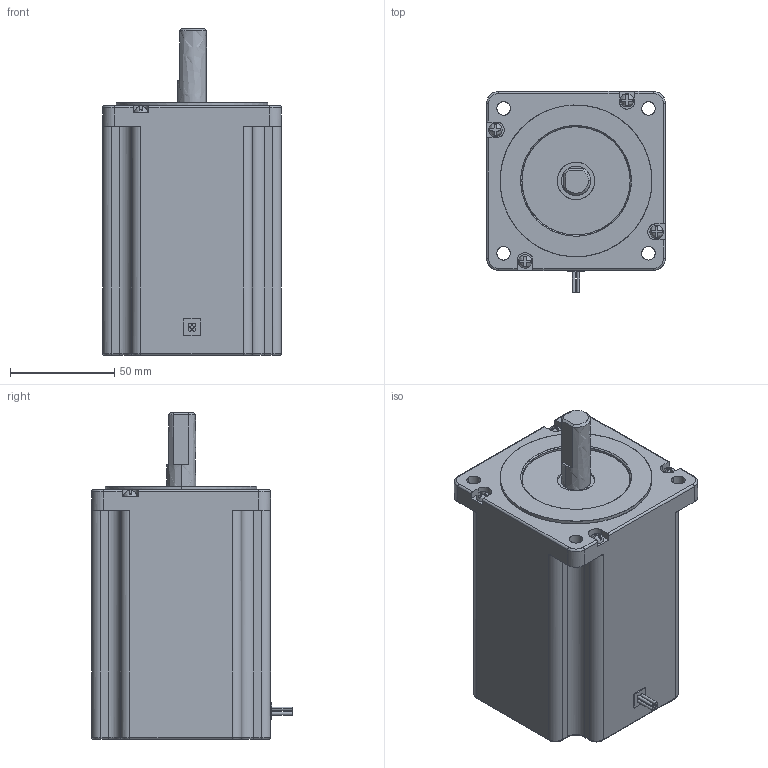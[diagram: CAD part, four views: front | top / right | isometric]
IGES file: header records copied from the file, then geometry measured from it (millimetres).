
Global section: file name: C:\DOCUME~1\PC001\BM-86M-C.igs; preprocessor: I-DEAS 3D IGES Translator 12; date: 20100107.190747; units: millimetre
Bounding box: 86 x 96.5 x 157 mm (x, y, z)
Surface area: 56311.5 mm2 (no closed solid volume)
Topology: 0 solids, 0 shells, 198 faces, 1061 edges, 1061 vertices
Faces by surface type: bspline 198
